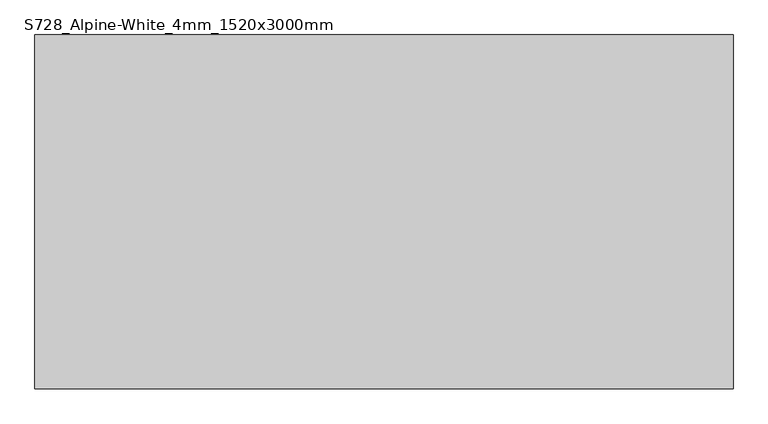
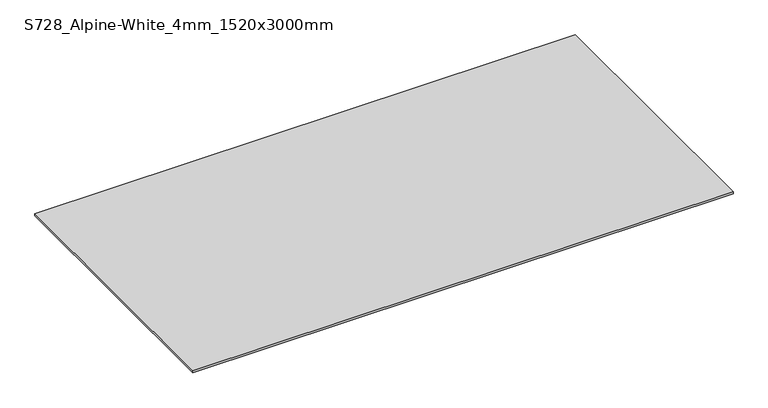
"""IFC4 building model written with IfcOpenShell, lengths in millimetres: proxy geometry, Kitchen_Counter-Tops_Indoor-Material_HI-MACS_Solids : S728_Alpine-White_4mm_1520x3000mm."""

from ifc_helpers import new_model, si_unit, origin, origin_with_axes, place, context, project, spatial, polyline, outline, extrude, source, transform, mapped, element, save


def s728_alpine_white_4mm_1520x3000mm_6b61dcad(model_context):
    return source(origin(), model_context, "Body", "SweptSolid", [
        extrude(outline(polyline([(1500.0, 760.0), (1500.0, -760.0), (-1500.0, -760.0), (-1500.0, 760.0), (1500.0, 760.0)])), origin_with_axes(), (0.0, 0.0, 1.0), 12.0),
    ])


if __name__ == "__main__":
    model = new_model("IFC4")
    model_context = context("Model", 3, world=origin())
    ifc_project = project(units=[si_unit("LENGTHUNIT", "METRE", prefix="MILLI")], contexts=[model_context])
    site = spatial("IfcSite", under=ifc_project)
    building = spatial("IfcBuilding", under=site)
    placement = place(None, origin())
    s728_alpine_white_4mm_1520x3000mm_shape = s728_alpine_white_4mm_1520x3000mm_6b61dcad(model_context)
    element("IfcBuildingElementProxy", 1, Name="Kitchen_Counter-Tops_Indoor-Material_HI-MACS_Solids : S728_Alpine-White_4mm_1520x3000mm", ObjectType="Kitchen_Counter-Tops_Indoor-Material_HI-MACS_Solids : S728_Alpine-White_4mm_1520x3000mm", at=placement, inside=building, context=model_context, shape_type="MappedRepresentation", body=[
        mapped(s728_alpine_white_4mm_1520x3000mm_shape, transform((0.0, 0.0, 0.0), x_axis=(1.0, 0.0, 0.0), y_axis=(0.0, 1.0, 0.0), z_axis=(0.0, 0.0, 1.0))),
    ])
    save(model, "model.ifc")
